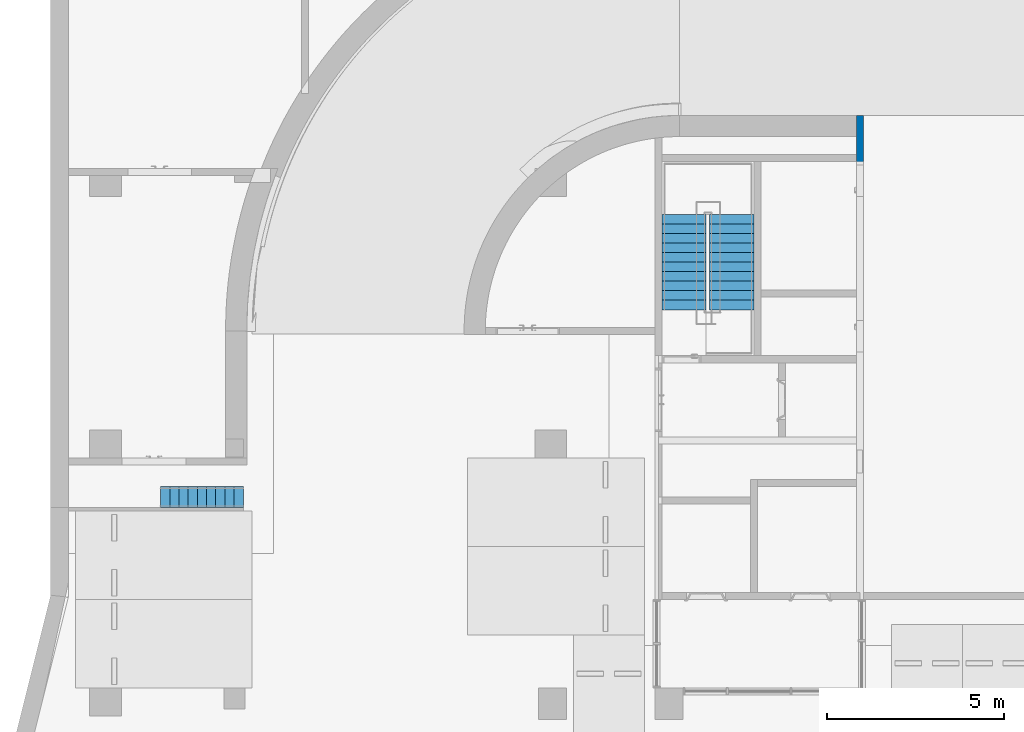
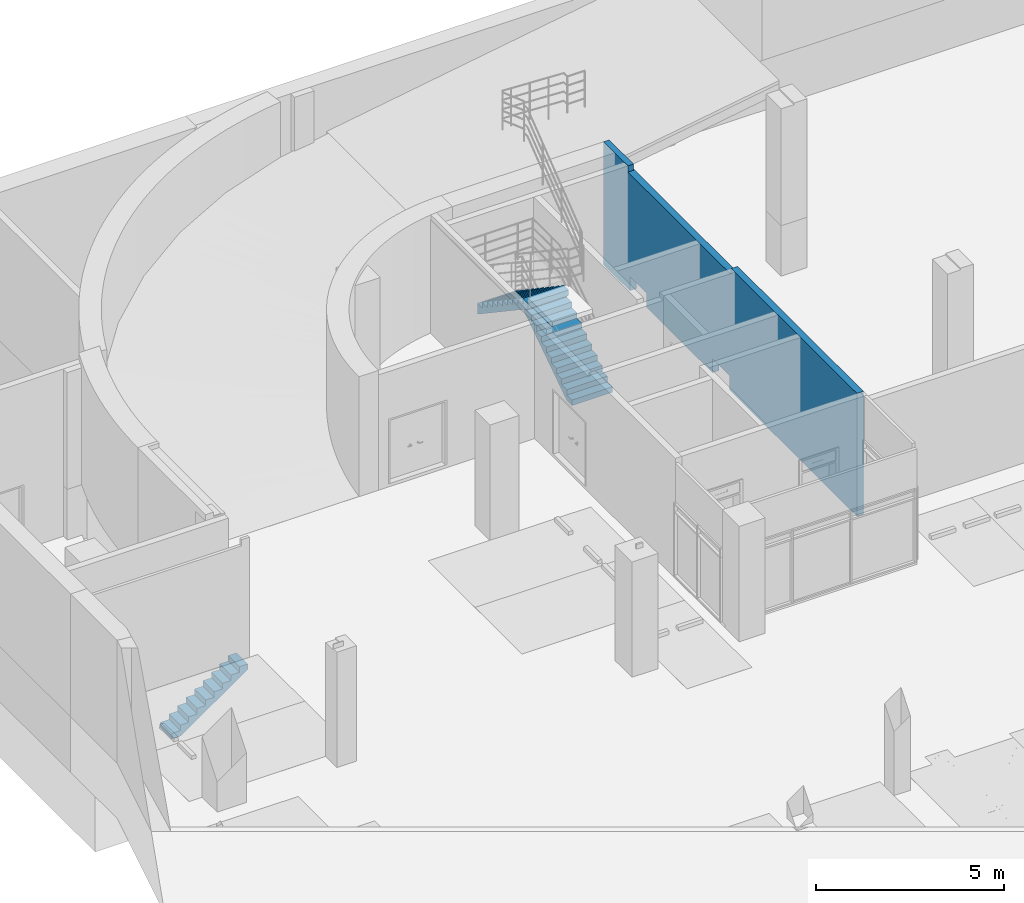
# One storey, part 24 of 30: 3 stair flights, 1 wall, 2 elements without a shape of their own.
"""IFC2X3 building model written with IfcOpenShell, lengths in millimetres."""

from ifc_helpers import new_model, entity, si_unit, converted_unit, derived_unit, direction, frame, origin, place, context, subcontext, project, spatial, faceted_brep, material, layer, layer_set, type_object, element, aggregate, save


model = new_model("IFC2X3")

# Units and contexts
model_context = context("Model", 3, precision=0.01, world=origin(), true_north=direction((6.123031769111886e-17, 1.0)))
body_context = subcontext(model_context, "Body", "Model", "MODEL_VIEW")
ifc_project = project(units=[si_unit("LENGTHUNIT", "METRE", prefix="MILLI"), si_unit("AREAUNIT", "SQUARE_METRE"), si_unit("VOLUMEUNIT", "CUBIC_METRE"), converted_unit("PLANEANGLEUNIT", "DEGREE", entity("IfcRatioMeasure", 0.017453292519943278), si_unit("PLANEANGLEUNIT", "RADIAN"), dimensions=[0, 0, 0, 0, 0, 0, 0]), si_unit("MASSUNIT", "GRAM", prefix="KILO"), derived_unit("MASSDENSITYUNIT", [(si_unit("MASSUNIT", "GRAM", prefix="KILO"), 1), (si_unit("LENGTHUNIT", "METRE"), -3)]), derived_unit("MOMENTOFINERTIAUNIT", [(si_unit("LENGTHUNIT", "METRE"), 4)]), si_unit("TIMEUNIT", "SECOND"), si_unit("FREQUENCYUNIT", "HERTZ"), si_unit("THERMODYNAMICTEMPERATUREUNIT", "DEGREE_CELSIUS"), derived_unit("THERMALTRANSMITTANCEUNIT", [(si_unit("MASSUNIT", "GRAM", prefix="KILO"), 1), (si_unit("THERMODYNAMICTEMPERATUREUNIT", "KELVIN"), -1), (si_unit("TIMEUNIT", "SECOND"), -3)]), derived_unit("VOLUMETRICFLOWRATEUNIT", [(si_unit("LENGTHUNIT", "METRE"), 3), (si_unit("TIMEUNIT", "SECOND"), -1)]), derived_unit("MASSFLOWRATEUNIT", [(si_unit("MASSUNIT", "GRAM", prefix="KILO"), 1), (si_unit("TIMEUNIT", "SECOND"), -1)]), derived_unit("ROTATIONALFREQUENCYUNIT", [(si_unit("TIMEUNIT", "SECOND"), -1)]), si_unit("ELECTRICCURRENTUNIT", "AMPERE"), si_unit("ELECTRICVOLTAGEUNIT", "VOLT"), si_unit("POWERUNIT", "WATT"), si_unit("FORCEUNIT", "NEWTON", prefix="KILO"), si_unit("ILLUMINANCEUNIT", "LUX"), si_unit("LUMINOUSFLUXUNIT", "LUMEN"), si_unit("LUMINOUSINTENSITYUNIT", "CANDELA"), derived_unit("USERDEFINED", [(si_unit("MASSUNIT", "GRAM", prefix="KILO"), -1), (si_unit("LENGTHUNIT", "METRE"), -2), (si_unit("TIMEUNIT", "SECOND"), 3), (si_unit("LUMINOUSFLUXUNIT", "LUMEN"), 1)]), derived_unit("SOUNDPOWERUNIT", [(si_unit("MASSUNIT", "GRAM", prefix="KILO"), 1), (si_unit("LENGTHUNIT", "METRE"), 2), (si_unit("TIMEUNIT", "SECOND"), -3)]), derived_unit("SOUNDPRESSUREUNIT", [(si_unit("MASSUNIT", "GRAM", prefix="KILO"), 1), (si_unit("LENGTHUNIT", "METRE"), -1), (si_unit("TIMEUNIT", "SECOND"), -2)]), derived_unit("LINEARVELOCITYUNIT", [(si_unit("LENGTHUNIT", "METRE"), 1), (si_unit("TIMEUNIT", "SECOND"), -1)]), si_unit("PRESSUREUNIT", "PASCAL"), derived_unit("USERDEFINED", [(si_unit("LENGTHUNIT", "METRE"), -2), (si_unit("MASSUNIT", "GRAM", prefix="KILO"), 1), (si_unit("TIMEUNIT", "SECOND"), -2)]), derived_unit("LINEARFORCEUNIT", [(si_unit("MASSUNIT", "GRAM", prefix="KILO"), 1), (si_unit("LENGTHUNIT", "METRE"), 1), (si_unit("TIMEUNIT", "SECOND"), -2), (si_unit("LENGTHUNIT", "METRE"), -1)]), derived_unit("PLANARFORCEUNIT", [(si_unit("MASSUNIT", "GRAM", prefix="KILO"), 1), (si_unit("LENGTHUNIT", "METRE"), 1), (si_unit("TIMEUNIT", "SECOND"), -2), (si_unit("LENGTHUNIT", "METRE"), -2)])], contexts=[model_context])

# Site, building, storey
site_placement = place(None, frame((-14167.972527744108, -657.2125860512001, 0.0)))
site = spatial("IfcSite", under=ifc_project, at=site_placement, Name="Default", CompositionType="ELEMENT")
building_placement = place(site_placement, origin())
building = spatial("IfcBuilding", under=site, at=building_placement, Name="Sample Building", CompositionType="ELEMENT")
storey_placement = place(building_placement, frame((0.0, 0.0, -10100.0)))
storey = spatial("IfcBuildingStorey", under=building, at=storey_placement, Name="지하2층", CompositionType="ELEMENT", Elevation=-10100.0)

# Wall
ifc_material = material(Name="KBIMS-콘크리트")
ifc_layer = layer(ifc_material, 200.0)
ifc_layer_set = layer_set([ifc_layer], Name="기본 벽:WA111-철근콘크리트구조 벽 200mm_CW1")
wall_type = type_object("IfcWallType", Name="기본 벽:WA111-철근콘크리트구조 벽 200mm_CW1", PredefinedType="STANDARD", material=ifc_layer_set)
wall_placement = place(storey_placement, frame((35867.972491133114, 29257.212307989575, 0.0), z_axis=(0.0, 0.0, 1.0), x_axis=(0.0, -1.0, 0.0)))
element("IfcWall", 1, at=wall_placement, inside=storey, type_object=wall_type, Name="기본 벽:WA111-철근콘크리트구조 벽 200mm_CW1", ObjectType="기본 벽:WA111-철근콘크리트구조 벽 200mm_CW1", context=body_context, shape_type="Brep", body=[
    faceted_brep([(0.0, -100.0, 2700.0), (0.0, -100.0, 0.0), (600.0, -100.0, 0.0), (1100.0, -100.0, 0.0), (1300.0, -100.0, 0.0), (1400.0, -100.0, 0.0), (1400.0, -100.0, 460.0), (2300.0, -100.0, 460.0), (2300.0, -100.0, 0.0), (4945.000014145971, -100.0, 0.0), (5145.0000141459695, -100.0, 0.0), (5800.0, -100.0, 0.0), (5800.0, -100.0, 460.0), (6700.0, -100.0, 460.0), (6700.0, -100.0, 0.0), (6800.0, -100.0, 0.0), (7000.0, -100.0, 0.0), (9100.0, -100.0, 0.0), (9300.0, -100.0, 0.0), (10300.0, -100.0, 0.0), (10500.0, -100.0, 0.0), (13499.999721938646, -100.0, 0.0), (13499.999721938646, -100.0, 4000.0), (10500.0, -100.0, 4000.0), (10300.0, -100.0, 4000.0), (9300.0, -100.0, 4000.0), (9100.0, -100.0, 4000.0), (7000.0, -100.0, 4000.0), (6800.0, -100.0, 4000.0), (6800.0, -100.0, 3800.0), (5145.0000141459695, -100.0, 3800.0), (4945.000014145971, -100.0, 3800.0), (1300.0, -100.0, 3800.0), (1300.0, -100.0, 4000.0), (1100.0, -100.0, 4000.0), (600.0, -100.0, 4000.0), (0.0, -100.0, 4000.0), (0.0, 100.0, 0.0), (0.0, 100.0, 2520.9120213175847), (0.0, 100.0, 2700.0), (0.0, 100.0, 2838.482010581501), (0.0, 100.0, 3129.7558215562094), (0.0, 100.0, 3150.0), (0.0, 100.0, 3800.0), (4649.999690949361, 100.0, 3800.0), (5049.999690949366, 100.0, 3800.0), (6800.0, 100.0, 3800.0), (6800.0, 100.0, 4000.0), (13499.999721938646, 100.0, 4000.0), (13499.999721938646, 100.0, 3800.0), (13499.999721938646, 100.0, 0.0), (6700.0, 100.0, 0.0), (6700.0, 100.0, 460.0), (5800.0, 100.0, 460.0), (5800.0, 100.0, 0.0), (2300.0, 100.0, 0.0), (2300.0, 100.0, 460.0), (1400.0, 100.0, 460.0), (1400.0, 100.0, 0.0), (1300.0, 100.0, 0.0), (0.0, 74.3924324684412, 3800.0), (1300.0, 74.39243246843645, 3800.0), (1300.0, 74.39243246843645, 4000.0), (0.0, 74.3924324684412, 4000.0), (13499.999721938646, 0.0, 4000.0), (13499.999721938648, 0.0, 0.0)], [[[0, 1, 2, 3, 4, 5, 6, 7, 8, 9, 10, 11, 12, 13, 14, 15, 16, 17, 18, 19, 20, 21, 22, 23, 24, 25, 26, 27, 28, 29, 30, 31, 32, 33, 34, 35, 36]], [[37, 38, 39, 40, 41, 42, 43, 44, 45, 46, 47, 48, 49, 50, 51, 52, 53, 54, 55, 56, 57, 58, 59]], [[60, 61, 32, 31, 30, 29, 46, 45, 44, 43]], [[46, 29, 28, 47]], [[61, 62, 33, 32]], [[61, 60, 63, 62]], [[1, 37, 59, 58, 5, 4, 3, 2]], [[22, 64, 48, 47, 28, 27, 26, 25, 24, 23]], [[1, 0, 39, 38, 37]], [[0, 36, 63, 60, 43, 42, 41, 40, 39]], [[57, 6, 5, 58]], [[6, 57, 56, 7]], [[7, 56, 55, 8]], [[14, 13, 52, 51]], [[13, 12, 53, 52]], [[12, 11, 54, 53]], [[22, 21, 65, 50, 49, 48, 64]], [[36, 35, 34, 33, 62, 63]], [[8, 55, 54, 11, 10, 9]], [[21, 20, 19, 18, 17, 16, 15, 14, 51, 50, 65]]]),
])

# Stair, stair flight
stair_1_placement = place(storey_placement, origin())
stair_1 = element("IfcStair", 2, at=stair_1_placement, inside=storey, Name="현장타설 계단:계단", ObjectType="현장타설 계단:ST111-철근콘크리트구조 계단 (직선형)", ShapeType="STRAIGHT_RUN_STAIR")
stair_flight_type_1 = type_object("IfcStairFlightType", Name="일체형 계단진행:일체형 계단진행 150mm_철근콘크리트", PredefinedType="NOTDEFINED")
stair_flight_1_placement = place(stair_1_placement, frame((16077.963798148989, 18157.21230798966, 0.0)))
stair_flight_1 = element("IfcStairFlight", 3, at=stair_flight_1_placement, type_object=stair_flight_type_1, material=ifc_material, Name="현장타설 계단:계단:3159392 Run 1", ObjectType="일체형 계단진행:일체형 계단진행 150mm_철근콘크리트", NumberOfRiser=10, NumberOfTreads=9, RiserHeight=0.5905511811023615, TreadLength=0.8858267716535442, context=body_context, shape_type="Brep", body=[
    faceted_brep([(260.0, 600.0, -1620.0), (0.0, 600.0, -1620.0), (0.0, 0.0, -1620.0), (260.0, 0.0, -1620.0), (260.0, 600.0, -1800.0), (0.0, 600.0, -1800.0), (0.0, 0.0, -1800.0), (260.0, 0.0, -1800.0), (520.0, 600.0, -1440.0), (260.0, 600.0, -1440.0), (260.0, 0.0, -1440.0), (520.0, 0.0, -1440.0), (520.0, 600.0, -1622.4390957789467), (263.5231383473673, 600.0, -1800.0), (263.5231383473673, 0.0, -1800.0), (520.0, 0.0, -1622.4390957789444), (780.0, 600.0, -1260.0), (520.0, 600.0, -1260.0), (520.0, 0.0, -1260.0), (780.0, 0.0, -1260.0), (780.0, 600.0, -1442.4390957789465), (780.0, 0.0, -1442.4390957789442), (1040.0, 600.0, -1080.0), (780.0, 600.0, -1080.0), (780.0, 0.0, -1080.0), (1040.0, 0.0, -1080.0), (1040.0, 600.0, -1262.4390957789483), (1040.0, 0.0, -1262.4390957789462), (1300.0, 600.0, -900.0), (1040.0, 600.0, -900.0), (1040.0, 0.0, -900.0), (1300.0, 0.0, -900.0), (1300.0, 600.0, -1082.4390957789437), (1300.0, 0.0, -1082.4390957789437), (1560.0, 600.0, -720.0), (1300.0, 600.0, -720.0), (1300.0, 0.0, -720.0), (1560.0, 0.0, -720.0), (1560.0, 600.0, -902.4390957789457), (1560.0, 0.0, -902.4390957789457), (1820.0, 600.0, -540.0), (1560.0, 600.0, -540.0), (1560.0, 0.0, -540.0), (1820.0, 0.0, -540.0), (1820.0, 600.0, -722.4390957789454), (1820.0, 0.0, -722.4390957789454), (2080.0, 600.0, -542.4390957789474), (2340.0, 600.0, -362.43909577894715), (2340.0, 0.0, -362.43909577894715), (2080.0, 0.0, -542.4390957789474), (2080.0, 600.0, -360.0), (1820.0, 600.0, -360.0), (1820.0, 0.0, -360.0), (2080.0, 0.0, -360.0), (2340.0, 600.0, -180.0), (2080.0, 600.0, -180.0), (2080.0, 0.0, -180.0), (2340.0, 0.0, -180.0)], [[[0, 1, 2, 3]], [[1, 0, 4, 5]], [[2, 1, 5, 6]], [[3, 2, 6, 7]], [[8, 9, 10, 11]], [[4, 0, 9, 8, 12, 13]], [[0, 3, 10, 9]], [[3, 7, 14, 15, 11, 10]], [[16, 17, 18, 19]], [[17, 16, 20, 12, 8]], [[8, 11, 18, 17]], [[19, 18, 11, 15, 21]], [[22, 23, 24, 25]], [[23, 22, 26, 20, 16]], [[16, 19, 24, 23]], [[25, 24, 19, 21, 27]], [[28, 29, 30, 31]], [[29, 28, 32, 26, 22]], [[22, 25, 30, 29]], [[31, 30, 25, 27, 33]], [[34, 35, 36, 37]], [[35, 34, 38, 32, 28]], [[28, 31, 36, 35]], [[37, 36, 31, 33, 39]], [[40, 41, 42, 43]], [[41, 40, 44, 38, 34]], [[34, 37, 42, 41]], [[43, 42, 37, 39, 45]], [[5, 4, 13, 14, 7, 6]], [[14, 13, 12, 20, 26, 32, 38, 44, 46, 47, 48, 49, 45, 39, 33, 27, 21, 15]], [[50, 51, 52, 53]], [[51, 50, 46, 44, 40]], [[40, 43, 52, 51]], [[53, 52, 43, 45, 49]], [[54, 55, 56, 57]], [[55, 54, 47, 46, 50]], [[50, 53, 56, 55]], [[57, 56, 53, 49, 48]], [[54, 57, 48, 47]]]),
])
aggregate(stair_1, [stair_flight_1])

# Stair, stair flights
stair_2_placement = place(storey_placement, origin())
stair_2 = element("IfcStair", 4, at=stair_2_placement, inside=storey, Name="현장타설 계단:계단", ObjectType="현장타설 계단:ST111-철근콘크리트구조 계단 (U형)", ShapeType="NOTDEFINED")
stair_flight_type_2 = type_object("IfcStairFlightType", Name="일체형 계단진행:일체형 계단진행 150mm_철근콘크리트", PredefinedType="STRAIGHT")
stair_flight_2_placement = place(stair_2_placement, frame((31617.972445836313, 23757.212278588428, 0.0)))
stair_flight_2 = element("IfcStairFlight", 5, at=stair_flight_2_placement, type_object=stair_flight_type_2, material=ifc_material, Name="현장타설 계단:계단:5957725 Run 1", ObjectType="일체형 계단진행:일체형 계단진행 150mm_철근콘크리트", NumberOfRiser=11, NumberOfTreads=10, RiserHeight=0.5936757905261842, TreadLength=0.8858267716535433, context=body_context, shape_type="Brep", body=[
    faceted_brep([(0.0, 270.0, 380.95238095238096), (0.0, 0.0, 380.95238095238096), (1248.2000905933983, 0.0, 380.95238095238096), (1248.2000905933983, 270.0, 380.95238095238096), (0.0, 270.0, 200.38078835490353), (0.0, 269.43182369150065, 200.0), (0.0, 0.0, 200.0), (1248.2000905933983, 0.0, 200.0), (1248.2000905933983, 269.43182369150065, 200.0), (1248.2000905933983, 270.0, 200.38078835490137), (0.0, 540.0, 561.9047619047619), (0.0, 270.0, 561.9047619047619), (1248.2000905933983, 270.0, 561.9047619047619), (1248.2000905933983, 540.0, 561.9047619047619), (0.0, 540.0, 381.33316930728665), (1248.2000905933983, 540.0, 381.3331693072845), (0.0, 810.0, 742.8571428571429), (0.0, 540.0, 742.8571428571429), (1248.2000905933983, 540.0, 742.8571428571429), (1248.2000905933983, 810.0, 742.8571428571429), (0.0, 810.0, 562.2855502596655), (1248.2000905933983, 810.0, 562.2855502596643), (0.0, 1080.0, 923.8095238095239), (0.0, 810.0, 923.8095238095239), (1248.2000905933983, 810.0, 923.8095238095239), (1248.2000905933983, 1080.0, 923.8095238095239), (0.0, 1080.0, 743.2379312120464), (1248.2000905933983, 1080.0, 743.2379312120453), (0.0, 1350.0, 1104.7619047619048), (0.0, 1080.0, 1104.7619047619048), (1248.2000905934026, 1080.0, 1104.7619047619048), (1248.2000905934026, 1350.0, 1104.7619047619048), (0.0, 1350.0, 924.1903121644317), (1248.2000905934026, 1350.0, 924.1903121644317), (0.0, 1620.0, 1285.7142857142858), (0.0, 1350.0, 1285.7142857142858), (1248.2000905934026, 1350.0, 1285.7142857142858), (1248.2000905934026, 1620.0, 1285.7142857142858), (0.0, 1620.0, 1105.1426931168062), (1248.2000905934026, 1620.0, 1105.1426931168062), (0.0, 1890.0, 1466.6666666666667), (0.0, 1620.0, 1466.6666666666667), (1248.2000905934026, 1620.0, 1466.6666666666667), (1248.2000905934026, 1890.0, 1466.6666666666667), (0.0, 1890.0, 1286.0950740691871), (1248.2000905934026, 1890.0, 1286.095074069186), (0.0, 2160.0, 1647.6190476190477), (0.0, 1890.0, 1647.6190476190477), (1248.2000905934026, 1890.0, 1647.6190476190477), (1248.2000905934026, 2160.0, 1647.6190476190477), (0.0, 2160.0, 1467.0474550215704), (1248.2000905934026, 2160.0, 1467.0474550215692), (0.0, 2430.0, 1828.5714285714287), (0.0, 2160.0, 1828.5714285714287), (1248.2000905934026, 2160.0, 1828.5714285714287), (1248.2000905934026, 2430.0, 1828.5714285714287), (0.0, 2430.0, 1647.9998359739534), (1248.2000905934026, 2430.0, 1647.9998359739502), (0.0, 2700.0, 2009.5238095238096), (0.0, 2430.0, 2009.5238095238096), (1248.2000905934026, 2430.0, 2009.5238095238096), (1248.2000905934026, 2700.0, 2009.5238095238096), (0.0, 2700.0, 1828.95221692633), (1248.2000905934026, 2700.0, 1828.95221692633)], [[[0, 1, 2, 3]], [[1, 0, 4, 5, 6]], [[2, 1, 6, 7]], [[3, 2, 7, 8, 9]], [[10, 11, 12, 13]], [[11, 10, 14, 4, 0]], [[0, 3, 12, 11]], [[13, 12, 3, 9, 15]], [[16, 17, 18, 19]], [[17, 16, 20, 14, 10]], [[10, 13, 18, 17]], [[19, 18, 13, 15, 21]], [[22, 23, 24, 25]], [[23, 22, 26, 20, 16]], [[16, 19, 24, 23]], [[25, 24, 19, 21, 27]], [[28, 29, 30, 31]], [[29, 28, 32, 26, 22]], [[22, 25, 30, 29]], [[31, 30, 25, 27, 33]], [[34, 35, 36, 37]], [[35, 34, 38, 32, 28]], [[28, 31, 36, 35]], [[37, 36, 31, 33, 39]], [[40, 41, 42, 43]], [[41, 40, 44, 38, 34]], [[34, 37, 42, 41]], [[43, 42, 37, 39, 45]], [[46, 47, 48, 49]], [[47, 46, 50, 44, 40]], [[40, 43, 48, 47]], [[49, 48, 43, 45, 51]], [[52, 53, 54, 55]], [[53, 52, 56, 50, 46]], [[46, 49, 54, 53]], [[55, 54, 49, 51, 57]], [[58, 59, 60, 61]], [[59, 58, 62, 56, 52]], [[52, 55, 60, 59]], [[61, 60, 55, 57, 63]], [[58, 61, 63, 62]], [[7, 6, 5, 8]], [[8, 5, 4, 14, 20, 26, 32, 38, 44, 50, 56, 62, 63, 57, 51, 45, 39, 33, 27, 21, 15, 9]]]),
])
stair_flight_type_3 = type_object("IfcStairFlightType", Name="일체형 계단진행:일체형 계단진행 150mm_철근콘크리트", PredefinedType="STRAIGHT")
stair_flight_3_placement = place(stair_2_placement, frame((30266.125814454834, 23757.21227858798, 0.0)))
stair_flight_3 = element("IfcStairFlight", 6, at=stair_flight_3_placement, type_object=stair_flight_type_3, material=ifc_material, Name="현장타설 계단:계단:5957725 Run 2", ObjectType="일체형 계단진행:일체형 계단진행 150mm_철근콘크리트", NumberOfRiser=11, NumberOfTreads=10, RiserHeight=0.5936757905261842, TreadLength=0.8858267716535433, context=body_context, shape_type="Brep", body=[
    faceted_brep([(1251.8466766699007, 2700.0, 2371.4285714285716), (0.0, 2700.0, 2371.4285714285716), (0.0, 2654.3839657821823, 2371.4285714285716), (0.0, 2430.0, 2371.4285714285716), (1251.8466766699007, 2430.0, 2371.4285714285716), (1251.8466766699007, 2654.3839657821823, 2371.4285714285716), (1251.8466766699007, 2430.0, 2190.856978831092), (1251.8466766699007, 2654.3839657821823, 2040.4761904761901), (1251.8466766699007, 2700.0, 2040.4761904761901), (0.0, 2700.0, 2040.4761904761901), (0.0, 2700.0, 2190.476190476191), (0.0, 2654.3839657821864, 2040.4761904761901), (0.0, 2430.0, 2190.856978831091), (1251.8466766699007, 2160.0, 2552.3809523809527), (1251.8466766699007, 2430.0, 2552.3809523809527), (0.0, 2430.0, 2552.3809523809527), (0.0, 2160.0, 2552.3809523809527), (1251.8466766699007, 2160.0, 2371.809359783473), (0.0, 2160.0, 2371.809359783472), (1251.8466766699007, 1890.0, 2733.3333333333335), (1251.8466766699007, 2160.0, 2733.3333333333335), (0.0, 2160.0, 2733.3333333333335), (0.0, 1890.0, 2733.3333333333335), (1251.8466766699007, 1890.0, 2552.7617407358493), (0.0, 1890.0, 2552.7617407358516), (1251.8466766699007, 1620.0, 2914.2857142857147), (1251.8466766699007, 1890.0, 2914.2857142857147), (0.0, 1890.0, 2914.2857142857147), (0.0, 1620.0, 2914.2857142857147), (1251.8466766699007, 1620.0, 2733.714121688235), (0.0, 1620.0, 2733.714121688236), (1251.8466766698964, 1350.0, 3095.2380952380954), (1251.8466766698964, 1620.0, 3095.2380952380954), (0.0, 1620.0, 3095.2380952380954), (0.0, 1350.0, 3095.2380952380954), (1251.8466766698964, 1350.0, 2914.6665026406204), (0.0, 1350.0, 2914.666502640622), (1251.8466766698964, 1080.0, 3276.1904761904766), (1251.8466766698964, 1350.0, 3276.1904761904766), (0.0, 1350.0, 3276.1904761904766), (0.0, 1080.0, 3276.1904761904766), (1251.8466766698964, 1080.0, 3095.618883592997), (0.0, 1080.0, 3095.618883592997), (1251.8466766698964, 810.0, 3457.1428571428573), (1251.8466766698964, 1080.0, 3457.1428571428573), (0.0, 1080.0, 3457.1428571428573), (0.0, 810.0, 3457.1428571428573), (1251.8466766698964, 810.0, 3276.5712645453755), (0.0, 810.0, 3276.571264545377), (1251.8466766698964, 540.0, 3638.0952380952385), (1251.8466766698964, 810.0, 3638.0952380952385), (0.0, 810.0, 3638.0952380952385), (0.0, 540.0, 3638.0952380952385), (1251.8466766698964, 540.0, 3457.5236454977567), (0.0, 540.0, 3457.5236454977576), (1251.8466766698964, 270.0, 3819.0476190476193), (1251.8466766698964, 540.0, 3819.0476190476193), (0.0, 540.0, 3819.0476190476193), (0.0, 270.0, 3819.0476190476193), (1251.8466766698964, 270.0, 3638.4760264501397), (0.0, 270.0, 3638.4760264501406), (1251.8466766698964, 0.0, 4000.0), (1251.8466766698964, 270.0, 4000.0), (0.0, 270.0, 4000.0), (0.0, 0.0, 4000.0), (1241.8466766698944, 0.0, 4000.0), (1251.8466766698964, 0.0, 3819.428407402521), (0.0, 0.0, 3819.428407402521), (1241.8466766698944, 0.0, 3819.4284074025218)], [[[0, 1, 2, 3, 4, 5]], [[4, 6, 7, 8, 0, 5]], [[1, 0, 8, 9, 10]], [[1, 10, 9, 11, 12, 3, 2]], [[13, 14, 15, 16]], [[14, 13, 17, 6, 4]], [[15, 14, 4, 3]], [[16, 15, 3, 12, 18]], [[19, 20, 21, 22]], [[20, 19, 23, 17, 13]], [[21, 20, 13, 16]], [[22, 21, 16, 18, 24]], [[25, 26, 27, 28]], [[26, 25, 29, 23, 19]], [[27, 26, 19, 22]], [[28, 27, 22, 24, 30]], [[31, 32, 33, 34]], [[32, 31, 35, 29, 25]], [[33, 32, 25, 28]], [[34, 33, 28, 30, 36]], [[37, 38, 39, 40]], [[38, 37, 41, 35, 31]], [[39, 38, 31, 34]], [[40, 39, 34, 36, 42]], [[43, 44, 45, 46]], [[44, 43, 47, 41, 37]], [[45, 44, 37, 40]], [[46, 45, 40, 42, 48]], [[49, 50, 51, 52]], [[50, 49, 53, 47, 43]], [[51, 50, 43, 46]], [[52, 51, 46, 48, 54]], [[55, 56, 57, 58]], [[56, 55, 59, 53, 49]], [[57, 56, 49, 52]], [[58, 57, 52, 54, 60]], [[61, 62, 63, 64, 65]], [[62, 61, 66, 59, 55]], [[63, 62, 55, 58]], [[64, 63, 58, 60, 67]], [[65, 64, 67, 68, 66, 61]], [[11, 7, 6, 17, 23, 29, 35, 41, 47, 53, 59, 66, 68, 67, 60, 54, 48, 42, 36, 30, 24, 18, 12]], [[7, 11, 9, 8]]]),
])
aggregate(stair_2, [stair_flight_2, stair_flight_3])

save(model, "model.ifc")
